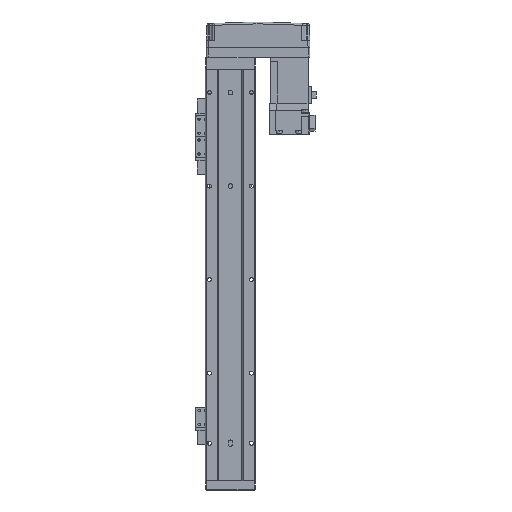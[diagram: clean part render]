
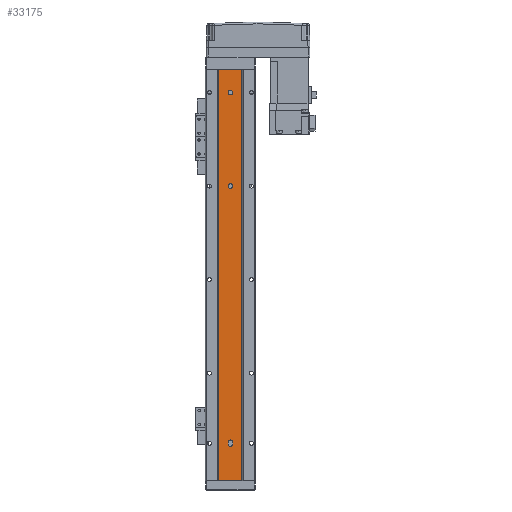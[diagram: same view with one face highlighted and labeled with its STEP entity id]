
A CAD part, front view. The second image highlights one B-rep face of the part: STEP entity #33175.
In plain terms, the highlighted planar face has unit normal (0, -1, 0).
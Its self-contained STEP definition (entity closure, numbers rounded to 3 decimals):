
#198 = EDGE_LOOP ( 'NONE', ( #15036, #18652, #19431, #30404 ) ) ;
#349 = VERTEX_POINT ( 'NONE', #14566 ) ;
#760 = DIRECTION ( 'NONE',  ( 0., 0., 1. ) ) ;
#1150 = LINE ( 'NONE', #21671, #30570 ) ;
#2549 = CARTESIAN_POINT ( 'NONE',  ( 0., 1.5, -125. ) ) ;
#2653 = EDGE_CURVE ( 'NONE', #13021, #349, #19353, .T. ) ;
#3283 = AXIS2_PLACEMENT_3D ( 'NONE', #11164, #31036, #17382 ) ;
#3518 = DIRECTION ( 'NONE',  ( 0., 0., 1. ) ) ;
#4068 = VERTEX_POINT ( 'NONE', #19550 ) ;
#4360 = CARTESIAN_POINT ( 'NONE',  ( 12.293, 1.5, -440. ) ) ;
#4399 = EDGE_CURVE ( 'NONE', #20125, #5869, #21402, .T. ) ;
#4544 = FACE_OUTER_BOUND ( 'NONE', #198, .T. ) ;
#4844 = DIRECTION ( 'NONE',  ( 0., 0., -1. ) ) ;
#5010 = FACE_BOUND ( 'NONE', #14469, .T. ) ;
#5220 = CIRCLE ( 'NONE', #35086, 2.5 ) ;
#5769 = DIRECTION ( 'NONE',  ( 0., -1., 0. ) ) ;
#5869 = VERTEX_POINT ( 'NONE', #26199 ) ;
#5996 = EDGE_CURVE ( 'NONE', #28314, #35726, #1150, .T. ) ;
#6114 = CARTESIAN_POINT ( 'NONE',  ( -2.5, 1.5, -125. ) ) ;
#6969 = EDGE_CURVE ( 'NONE', #23303, #13884, #25767, .T. ) ;
#7168 = EDGE_CURVE ( 'NONE', #12063, #4068, #14520, .T. ) ;
#7333 = PLANE ( 'NONE',  #9109 ) ;
#8303 = VECTOR ( 'NONE', #3518, 1000. ) ;
#9109 = AXIS2_PLACEMENT_3D ( 'NONE', #33354, #33102, #21884 ) ;
#10305 = CARTESIAN_POINT ( 'NONE',  ( 12.293, 1.5, -440. ) ) ;
#10361 = ORIENTED_EDGE ( 'NONE', *, *, #27682, .F. ) ;
#11164 = CARTESIAN_POINT ( 'NONE',  ( 0., 1.5, -25. ) ) ;
#11397 = DIRECTION ( 'NONE',  ( 1., 0., 0. ) ) ;
#11652 = FACE_BOUND ( 'NONE', #31776, .T. ) ;
#12063 = VERTEX_POINT ( 'NONE', #25840 ) ;
#12206 = CARTESIAN_POINT ( 'NONE',  ( 2.5, 1.5, -401. ) ) ;
#12354 = CARTESIAN_POINT ( 'NONE',  ( 2.5, 1.5, -125. ) ) ;
#12573 = ORIENTED_EDGE ( 'NONE', *, *, #27336, .F. ) ;
#12885 = CIRCLE ( 'NONE', #17564, 2.5 ) ;
#13021 = VERTEX_POINT ( 'NONE', #34662 ) ;
#13381 = EDGE_CURVE ( 'NONE', #12063, #23303, #20470, .T. ) ;
#13765 = CARTESIAN_POINT ( 'NONE',  ( 12.293, 1.5, 0. ) ) ;
#13864 = DIRECTION ( 'NONE',  ( 0., -1., 0. ) ) ;
#13884 = VERTEX_POINT ( 'NONE', #15971 ) ;
#13927 = ORIENTED_EDGE ( 'NONE', *, *, #31251, .F. ) ;
#14413 = CARTESIAN_POINT ( 'NONE',  ( 12.293, 1.5, -440. ) ) ;
#14469 = EDGE_LOOP ( 'NONE', ( #18259, #12573 ) ) ;
#14520 = LINE ( 'NONE', #26667, #35987 ) ;
#14524 = ORIENTED_EDGE ( 'NONE', *, *, #5996, .F. ) ;
#14560 = CARTESIAN_POINT ( 'NONE',  ( 0., 1.5, -25. ) ) ;
#14566 = CARTESIAN_POINT ( 'NONE',  ( -2.5, 1.5, -25. ) ) ;
#14694 = VECTOR ( 'NONE', #29506, 1000. ) ;
#15036 = ORIENTED_EDGE ( 'NONE', *, *, #32714, .F. ) ;
#15971 = CARTESIAN_POINT ( 'NONE',  ( 12.293, 1.5, 0. ) ) ;
#16776 = DIRECTION ( 'NONE',  ( 0., -1., 0. ) ) ;
#17382 = DIRECTION ( 'NONE',  ( 1., 0., 0. ) ) ;
#17434 = CARTESIAN_POINT ( 'NONE',  ( -2.5, 1.5, -399. ) ) ;
#17546 = CIRCLE ( 'NONE', #24220, 2.5 ) ;
#17564 = AXIS2_PLACEMENT_3D ( 'NONE', #33992, #13864, #11397 ) ;
#17732 = EDGE_CURVE ( 'NONE', #25991, #31847, #5220, .T. ) ;
#18018 = CARTESIAN_POINT ( 'NONE',  ( 2.5, 1.5, -440. ) ) ;
#18259 = ORIENTED_EDGE ( 'NONE', *, *, #2653, .F. ) ;
#18652 = ORIENTED_EDGE ( 'NONE', *, *, #7168, .F. ) ;
#19353 = CIRCLE ( 'NONE', #26935, 2.5 ) ;
#19413 = DIRECTION ( 'NONE',  ( 0., -1., 0. ) ) ;
#19431 = ORIENTED_EDGE ( 'NONE', *, *, #13381, .T. ) ;
#19541 = VECTOR ( 'NONE', #24314, 1000. ) ;
#19550 = CARTESIAN_POINT ( 'NONE',  ( -12.293, 1.5, 0. ) ) ;
#20125 = VERTEX_POINT ( 'NONE', #12206 ) ;
#20229 = EDGE_CURVE ( 'NONE', #35726, #20125, #31986, .T. ) ;
#20239 = ORIENTED_EDGE ( 'NONE', *, *, #4399, .F. ) ;
#20470 = LINE ( 'NONE', #4360, #19541 ) ;
#20589 = FACE_BOUND ( 'NONE', #36773, .T. ) ;
#20926 = CARTESIAN_POINT ( 'NONE',  ( 0., 1.5, -401. ) ) ;
#21059 = DIRECTION ( 'NONE',  ( 1., 0., 0. ) ) ;
#21402 = LINE ( 'NONE', #18018, #14694 ) ;
#21671 = CARTESIAN_POINT ( 'NONE',  ( -2.5, 1.5, -440. ) ) ;
#21884 = DIRECTION ( 'NONE',  ( 1., 0., 0. ) ) ;
#22341 = LINE ( 'NONE', #13765, #35729 ) ;
#22961 = DIRECTION ( 'NONE',  ( 1., 0., 0. ) ) ;
#23245 = CARTESIAN_POINT ( 'NONE',  ( -2.5, 1.5, -401. ) ) ;
#23303 = VERTEX_POINT ( 'NONE', #10305 ) ;
#23720 = AXIS2_PLACEMENT_3D ( 'NONE', #20926, #29810, #21059 ) ;
#23913 = ORIENTED_EDGE ( 'NONE', *, *, #17732, .F. ) ;
#24220 = AXIS2_PLACEMENT_3D ( 'NONE', #2549, #19413, #34025 ) ;
#24314 = DIRECTION ( 'NONE',  ( 1., 0., 0. ) ) ;
#25767 = LINE ( 'NONE', #14413, #8303 ) ;
#25840 = CARTESIAN_POINT ( 'NONE',  ( -12.293, 1.5, -440. ) ) ;
#25991 = VERTEX_POINT ( 'NONE', #6114 ) ;
#26199 = CARTESIAN_POINT ( 'NONE',  ( 2.5, 1.5, -399. ) ) ;
#26442 = CIRCLE ( 'NONE', #3283, 2.5 ) ;
#26667 = CARTESIAN_POINT ( 'NONE',  ( -12.293, 1.5, -440. ) ) ;
#26935 = AXIS2_PLACEMENT_3D ( 'NONE', #14560, #5769, #22961 ) ;
#27336 = EDGE_CURVE ( 'NONE', #349, #13021, #26442, .T. ) ;
#27569 = ORIENTED_EDGE ( 'NONE', *, *, #20229, .F. ) ;
#27682 = EDGE_CURVE ( 'NONE', #5869, #28314, #12885, .T. ) ;
#28314 = VERTEX_POINT ( 'NONE', #17434 ) ;
#28421 = CARTESIAN_POINT ( 'NONE',  ( 0., 1.5, -125. ) ) ;
#29506 = DIRECTION ( 'NONE',  ( 0., 0., 1. ) ) ;
#29810 = DIRECTION ( 'NONE',  ( 0., -1., 0. ) ) ;
#30404 = ORIENTED_EDGE ( 'NONE', *, *, #6969, .T. ) ;
#30570 = VECTOR ( 'NONE', #4844, 1000. ) ;
#31036 = DIRECTION ( 'NONE',  ( 0., -1., 0. ) ) ;
#31251 = EDGE_CURVE ( 'NONE', #31847, #25991, #17546, .T. ) ;
#31776 = EDGE_LOOP ( 'NONE', ( #13927, #23913 ) ) ;
#31847 = VERTEX_POINT ( 'NONE', #12354 ) ;
#31986 = CIRCLE ( 'NONE', #23720, 2.5 ) ;
#32714 = EDGE_CURVE ( 'NONE', #4068, #13884, #22341, .T. ) ;
#33102 = DIRECTION ( 'NONE',  ( 0., -1., 0. ) ) ;
#33175 = ADVANCED_FACE ( 'NONE', ( #20589, #11652, #5010, #4544 ), #7333, .T. ) ;
#33354 = CARTESIAN_POINT ( 'NONE',  ( 12.293, 1.5, -440. ) ) ;
#33992 = CARTESIAN_POINT ( 'NONE',  ( 0., 1.5, -399. ) ) ;
#34025 = DIRECTION ( 'NONE',  ( 1., 0., 0. ) ) ;
#34662 = CARTESIAN_POINT ( 'NONE',  ( 2.5, 1.5, -25. ) ) ;
#35086 = AXIS2_PLACEMENT_3D ( 'NONE', #28421, #16776, #36900 ) ;
#35726 = VERTEX_POINT ( 'NONE', #23245 ) ;
#35729 = VECTOR ( 'NONE', #36289, 1000. ) ;
#35987 = VECTOR ( 'NONE', #760, 1000. ) ;
#36289 = DIRECTION ( 'NONE',  ( 1., 0., 0. ) ) ;
#36773 = EDGE_LOOP ( 'NONE', ( #27569, #14524, #10361, #20239 ) ) ;
#36900 = DIRECTION ( 'NONE',  ( 1., 0., 0. ) ) ;
